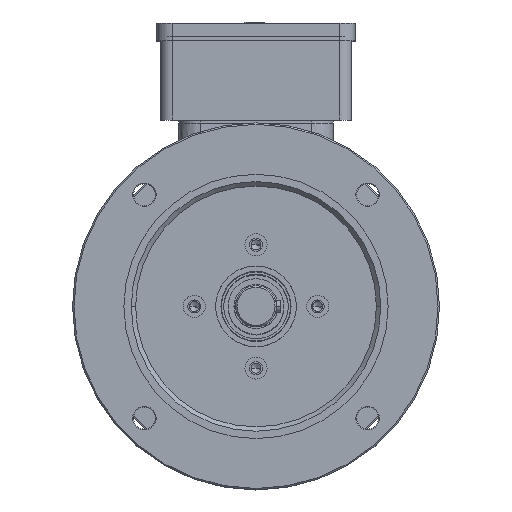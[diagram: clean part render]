
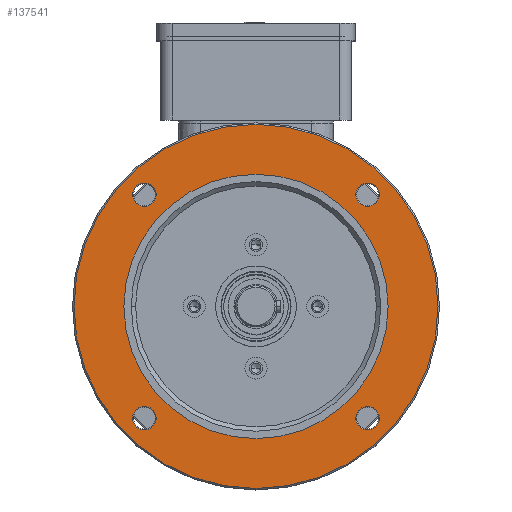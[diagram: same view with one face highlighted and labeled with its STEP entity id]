
A CAD part, top view. The second image highlights one B-rep face of the part: STEP entity #137541.
In plain terms, the highlighted planar face has unit normal (0, 0, 1).
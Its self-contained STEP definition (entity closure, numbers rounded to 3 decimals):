
#913 = AXIS2_PLACEMENT_3D ( 'NONE', #133523, #147046, #145957 ) ;
#1511 = FACE_BOUND ( 'NONE', #115973, .T. ) ;
#1896 = DIRECTION ( 'NONE',  ( 1., 0., 0. ) ) ;
#5087 = EDGE_CURVE ( 'NONE', #115583, #64939, #42511, .T. ) ;
#5444 = DIRECTION ( 'NONE',  ( 0., 0., 1. ) ) ;
#6135 = CARTESIAN_POINT ( 'NONE',  ( 0., 0., 165. ) ) ;
#8915 = CARTESIAN_POINT ( 'NONE',  ( -124., 0., 165. ) ) ;
#9661 = DIRECTION ( 'NONE',  ( 1., 0., 0. ) ) ;
#9966 = ORIENTED_EDGE ( 'NONE', *, *, #73182, .F. ) ;
#11130 = DIRECTION ( 'NONE',  ( 0., 0., 1. ) ) ;
#11370 = EDGE_LOOP ( 'NONE', ( #131686, #62597 ) ) ;
#13092 = CIRCLE ( 'NONE', #135377, 124. ) ;
#14667 = ORIENTED_EDGE ( 'NONE', *, *, #101902, .F. ) ;
#20146 = CARTESIAN_POINT ( 'NONE',  ( -84.014, 76.014, 165. ) ) ;
#21455 = CARTESIAN_POINT ( 'NONE',  ( 76.014, -76.014, 165. ) ) ;
#22028 = CARTESIAN_POINT ( 'NONE',  ( -68.014, 76.014, 165. ) ) ;
#22713 = CIRCLE ( 'NONE', #50401, 8. ) ;
#23119 = AXIS2_PLACEMENT_3D ( 'NONE', #149396, #62618, #111182 ) ;
#24058 = VERTEX_POINT ( 'NONE', #103426 ) ;
#24833 = CIRCLE ( 'NONE', #913, 8. ) ;
#25070 = CIRCLE ( 'NONE', #136013, 124. ) ;
#26523 = VERTEX_POINT ( 'NONE', #89571 ) ;
#26656 = AXIS2_PLACEMENT_3D ( 'NONE', #138122, #86996, #38036 ) ;
#26816 = CARTESIAN_POINT ( 'NONE',  ( -68.014, -76.014, 165. ) ) ;
#28836 = EDGE_LOOP ( 'NONE', ( #135150, #47784 ) ) ;
#30353 = CARTESIAN_POINT ( 'NONE',  ( 68.014, -76.014, 165. ) ) ;
#32253 = EDGE_CURVE ( 'NONE', #64939, #115583, #73134, .T. ) ;
#32291 = FACE_BOUND ( 'NONE', #114919, .T. ) ;
#33497 = AXIS2_PLACEMENT_3D ( 'NONE', #6135, #67516, #92305 ) ;
#35954 = CARTESIAN_POINT ( 'NONE',  ( 84.014, -76.014, 165. ) ) ;
#35960 = DIRECTION ( 'NONE',  ( 1., 0., 0. ) ) ;
#38036 = DIRECTION ( 'NONE',  ( 1., 0., 0. ) ) ;
#39619 = DIRECTION ( 'NONE',  ( 0., 0., 1. ) ) ;
#39655 = CARTESIAN_POINT ( 'NONE',  ( 84.014, 76.014, 165. ) ) ;
#42511 = CIRCLE ( 'NONE', #151149, 8. ) ;
#43050 = CARTESIAN_POINT ( 'NONE',  ( -76.014, -76.014, 165. ) ) ;
#44678 = ORIENTED_EDGE ( 'NONE', *, *, #32253, .F. ) ;
#45718 = ORIENTED_EDGE ( 'NONE', *, *, #5087, .F. ) ;
#46652 = AXIS2_PLACEMENT_3D ( 'NONE', #43050, #105551, #141678 ) ;
#47219 = CARTESIAN_POINT ( 'NONE',  ( 76.014, -76.014, 165. ) ) ;
#47290 = ORIENTED_EDGE ( 'NONE', *, *, #113617, .F. ) ;
#47784 = ORIENTED_EDGE ( 'NONE', *, *, #74860, .F. ) ;
#50401 = AXIS2_PLACEMENT_3D ( 'NONE', #144409, #96373, #9661 ) ;
#51222 = VERTEX_POINT ( 'NONE', #26816 ) ;
#51418 = CARTESIAN_POINT ( 'NONE',  ( 0., 124., 165. ) ) ;
#53113 = VERTEX_POINT ( 'NONE', #8915 ) ;
#53387 = CARTESIAN_POINT ( 'NONE',  ( 0., 0., 165. ) ) ;
#58366 = CARTESIAN_POINT ( 'NONE',  ( 90., 0., 165. ) ) ;
#62511 = VERTEX_POINT ( 'NONE', #58366 ) ;
#62597 = ORIENTED_EDGE ( 'NONE', *, *, #151458, .T. ) ;
#62618 = DIRECTION ( 'NONE',  ( 0., 0., 1. ) ) ;
#63330 = EDGE_CURVE ( 'NONE', #51222, #24058, #87732, .T. ) ;
#64939 = VERTEX_POINT ( 'NONE', #30353 ) ;
#65041 = FACE_BOUND ( 'NONE', #142125, .T. ) ;
#67516 = DIRECTION ( 'NONE',  ( 0., 0., 1. ) ) ;
#68765 = EDGE_CURVE ( 'NONE', #53113, #159302, #13092, .T. ) ;
#68853 = DIRECTION ( 'NONE',  ( 1., 0., 0. ) ) ;
#71785 = EDGE_CURVE ( 'NONE', #95135, #101714, #114038, .T. ) ;
#73134 = CIRCLE ( 'NONE', #145854, 8. ) ;
#73182 = EDGE_CURVE ( 'NONE', #26523, #117234, #86226, .T. ) ;
#74860 = EDGE_CURVE ( 'NONE', #105103, #62511, #96679, .T. ) ;
#75122 = DIRECTION ( 'NONE',  ( 0., 0., 1. ) ) ;
#84874 = CARTESIAN_POINT ( 'NONE',  ( 124., 0., 165. ) ) ;
#86226 = CIRCLE ( 'NONE', #116778, 8. ) ;
#86996 = DIRECTION ( 'NONE',  ( 0., 0., 1. ) ) ;
#87732 = CIRCLE ( 'NONE', #46652, 8. ) ;
#88204 = FACE_BOUND ( 'NONE', #123929, .T. ) ;
#89571 = CARTESIAN_POINT ( 'NONE',  ( 68.014, 76.014, 165. ) ) ;
#89654 = DIRECTION ( 'NONE',  ( 1., 0., 0. ) ) ;
#91577 = CIRCLE ( 'NONE', #33497, 90. ) ;
#92305 = DIRECTION ( 'NONE',  ( 1., 0., 0. ) ) ;
#93231 = ORIENTED_EDGE ( 'NONE', *, *, #71785, .F. ) ;
#94170 = DIRECTION ( 'NONE',  ( 0., 0., 1. ) ) ;
#95135 = VERTEX_POINT ( 'NONE', #20146 ) ;
#96373 = DIRECTION ( 'NONE',  ( 0., 0., 1. ) ) ;
#96679 = CIRCLE ( 'NONE', #23119, 90. ) ;
#99360 = DIRECTION ( 'NONE',  ( 0., 0., -1. ) ) ;
#99953 = CARTESIAN_POINT ( 'NONE',  ( 76.014, 76.014, 165. ) ) ;
#101714 = VERTEX_POINT ( 'NONE', #22028 ) ;
#101902 = EDGE_CURVE ( 'NONE', #101714, #95135, #24833, .T. ) ;
#103426 = CARTESIAN_POINT ( 'NONE',  ( -84.014, -76.014, 165. ) ) ;
#105103 = VERTEX_POINT ( 'NONE', #110154 ) ;
#105195 = CIRCLE ( 'NONE', #143715, 8. ) ;
#105551 = DIRECTION ( 'NONE',  ( 0., 0., 1. ) ) ;
#108975 = EDGE_CURVE ( 'NONE', #117234, #26523, #105195, .T. ) ;
#110154 = CARTESIAN_POINT ( 'NONE',  ( -90., 0., 165. ) ) ;
#111182 = DIRECTION ( 'NONE',  ( 1., 0., 0. ) ) ;
#113374 = CARTESIAN_POINT ( 'NONE',  ( 0., 0., 165. ) ) ;
#113617 = EDGE_CURVE ( 'NONE', #24058, #51222, #22713, .T. ) ;
#114038 = CIRCLE ( 'NONE', #26656, 8. ) ;
#114919 = EDGE_LOOP ( 'NONE', ( #45718, #44678 ) ) ;
#115583 = VERTEX_POINT ( 'NONE', #35954 ) ;
#115973 = EDGE_LOOP ( 'NONE', ( #131919, #9966 ) ) ;
#116778 = AXIS2_PLACEMENT_3D ( 'NONE', #99953, #75122, #1896 ) ;
#117234 = VERTEX_POINT ( 'NONE', #39655 ) ;
#121579 = DIRECTION ( 'NONE',  ( 0., 0., 1. ) ) ;
#122864 = FACE_BOUND ( 'NONE', #28836, .T. ) ;
#123929 = EDGE_LOOP ( 'NONE', ( #140908, #47290 ) ) ;
#125211 = PLANE ( 'NONE',  #148405 ) ;
#131686 = ORIENTED_EDGE ( 'NONE', *, *, #68765, .T. ) ;
#131919 = ORIENTED_EDGE ( 'NONE', *, *, #108975, .F. ) ;
#132578 = FACE_OUTER_BOUND ( 'NONE', #11370, .T. ) ;
#133523 = CARTESIAN_POINT ( 'NONE',  ( -76.014, 76.014, 165. ) ) ;
#135125 = EDGE_CURVE ( 'NONE', #62511, #105103, #91577, .T. ) ;
#135150 = ORIENTED_EDGE ( 'NONE', *, *, #135125, .F. ) ;
#135377 = AXIS2_PLACEMENT_3D ( 'NONE', #53387, #5444, #139569 ) ;
#136013 = AXIS2_PLACEMENT_3D ( 'NONE', #113374, #39619, #89654 ) ;
#137541 = ADVANCED_FACE ( 'NONE', ( #65041, #32291, #122864, #132578, #88204, #1511 ), #125211, .F. ) ;
#137585 = DIRECTION ( 'NONE',  ( -1., 0., 0. ) ) ;
#138122 = CARTESIAN_POINT ( 'NONE',  ( -76.014, 76.014, 165. ) ) ;
#139569 = DIRECTION ( 'NONE',  ( 1., 0., 0. ) ) ;
#140908 = ORIENTED_EDGE ( 'NONE', *, *, #63330, .F. ) ;
#141678 = DIRECTION ( 'NONE',  ( 1., 0., 0. ) ) ;
#142125 = EDGE_LOOP ( 'NONE', ( #14667, #93231 ) ) ;
#142743 = CARTESIAN_POINT ( 'NONE',  ( 76.014, 76.014, 165. ) ) ;
#143715 = AXIS2_PLACEMENT_3D ( 'NONE', #142743, #94170, #68853 ) ;
#144409 = CARTESIAN_POINT ( 'NONE',  ( -76.014, -76.014, 165. ) ) ;
#145854 = AXIS2_PLACEMENT_3D ( 'NONE', #47219, #11130, #35960 ) ;
#145957 = DIRECTION ( 'NONE',  ( 1., 0., 0. ) ) ;
#146446 = DIRECTION ( 'NONE',  ( 1., 0., 0. ) ) ;
#147046 = DIRECTION ( 'NONE',  ( 0., 0., 1. ) ) ;
#148405 = AXIS2_PLACEMENT_3D ( 'NONE', #51418, #99360, #137585 ) ;
#149396 = CARTESIAN_POINT ( 'NONE',  ( 0., 0., 165. ) ) ;
#151149 = AXIS2_PLACEMENT_3D ( 'NONE', #21455, #121579, #146446 ) ;
#151458 = EDGE_CURVE ( 'NONE', #159302, #53113, #25070, .T. ) ;
#159302 = VERTEX_POINT ( 'NONE', #84874 ) ;
